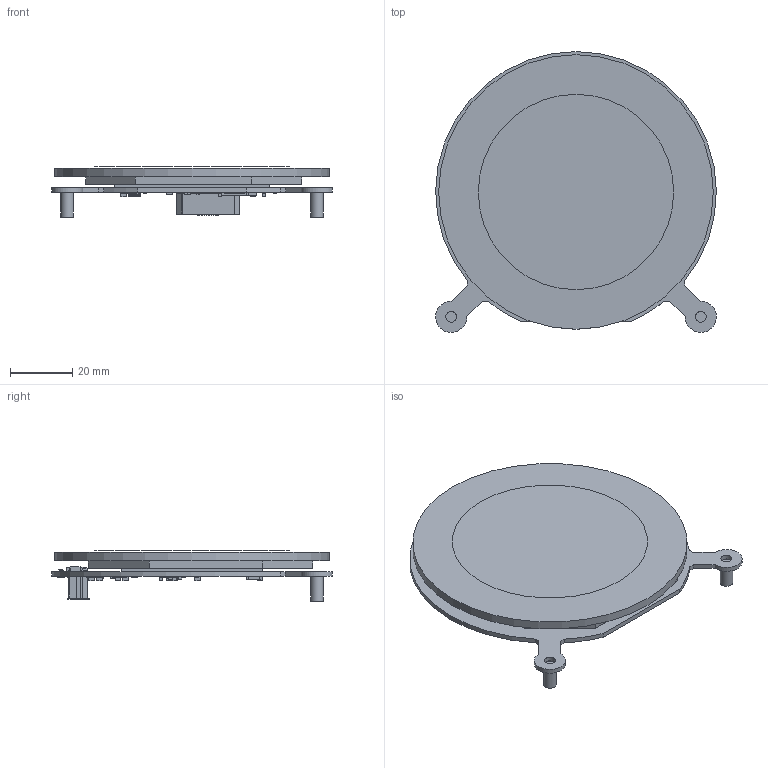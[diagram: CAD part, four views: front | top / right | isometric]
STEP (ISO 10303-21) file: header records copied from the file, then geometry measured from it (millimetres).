
FILE_DESCRIPTION(('Open CASCADE Model'),'2;1');
FILE_NAME('Open CASCADE Shape Model','2023-02-14T19:58:47',('Author'),( 'Open CASCADE'),'Open CASCADE STEP processor 6.8','Open CASCADE 6.8' ,'Unknown');
FILE_SCHEMA(('AUTOMOTIVE_DESIGN { 1 0 10303 214 1 1 1 1 }'));
Length unit declared in the file: millimetre
Products named in the file (114): PCB; Board; Open CASCADE STEP translator 6.8 1.1.1; HW4; 6494620704; Cylinder; 6494620304; 6494620064; Extruded; H2; 6495085616; U3; qfn10_rm0_4-1; 6495085056; 6495084656; L3; 6495083216; 6495082896; C7; C0603; 6495081216; C6; L4; 6495086256; 6495085136; C15; CN3; 6495082016; U1; SOT23-6; 6494623664; U2; U4; User_Library-SSOP-8-1; 6495083936; 6495083536; SB1; R0402; 6494627024; SB2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
Assembly tree (171 placements, depth 4):
  PCB
    Board
      Open CASCADE STEP translator 6.8 1.1.1
    HW4
      6494620704
        Cylinder
      6494620304
        Cylinder
      6494620064
        Extruded
    H2
      6495085616
        Cylinder
    U3
      qfn10_rm0_4-1
      6495085056
        Extruded
      6495084656
        Cylinder
    L3
      6495083216
        Extruded
      6495082896
        Extruded
    C7
      C0603
      6495081216
        Extruded
    C6
      C0603
      6495081216
        Extruded
    L4
      6495086256
        Extruded
      6495085136
        Extruded
    C15
      C0603
      6495081216
        Extruded
    CN3
      6495082016
        Extruded
    U1
      SOT23-6
      6494623664
        Extruded
    U2
      qfn10_rm0_4-1
      6495085056
        Extruded
      6495084656
        Cylinder
    U4
      User_Library-SSOP-8-1
      6495083936
        Extruded
      6495083536
        Cylinder
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Bounding box: 90 x 89.98 x 16.15 mm (x, y, z)
Volume: 40887.7 mm3; surface area: 50725.2 mm2
Topology: 148 solids, 148 shells, 7077 faces, 18180 edges, 11159 vertices
Faces by surface type: plane 4091, cylinder 1429, bspline 1039, sphere 436, torus 74, revolution 8
Full cylindrical faces by diameter (mm): 0.26 x2, 0.5 x1, 0.889 x2, 1.1 x2, 3.5 x2, 4 x2, 7.01 x1, 62.64 x1, 88 x1
Entity records: 139765 total; most frequent: CARTESIAN_POINT 26211, ORIENTED_EDGE 19246, DIRECTION 17387, EDGE_CURVE 9623, LINE 8345, VECTOR 8345, VERTEX_POINT 6289, AXIS2_PLACEMENT_3D 4517
